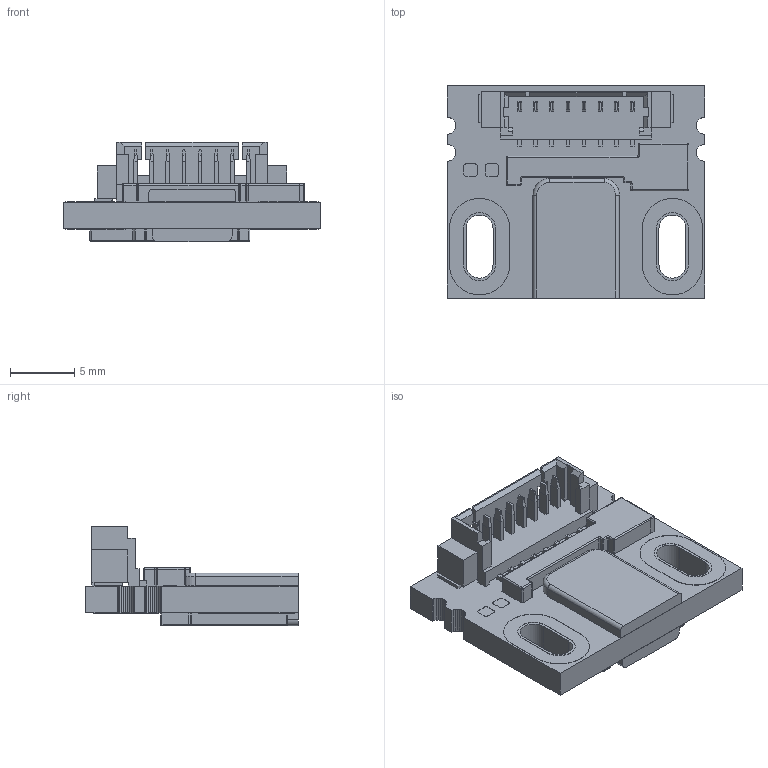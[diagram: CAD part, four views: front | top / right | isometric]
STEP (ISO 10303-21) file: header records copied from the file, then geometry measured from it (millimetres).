
FILE_DESCRIPTION (( 'STEP AP214' ), '1' );
FILE_NAME ('RLC2ICAxxxx07A19.STEP', '2022-07-15T05:14:14', ( '' ), ( '' ), 'SwSTEP 2.0', 'SolidWorks 2020', '' );
FILE_SCHEMA (( 'AUTOMOTIVE_DESIGN' ));
Length unit declared in the file: millimetre
Products named in the file (1): RLC2ICAxxxx07A19
Bounding box: 20 x 16.5 x 7.74 mm (x, y, z)
Volume: 945.5 mm3; surface area: 1659.5 mm2
Topology: 10 solids, 10 shells, 619 faces, 1697 edges, 1086 vertices
Faces by surface type: plane 457, cylinder 80, bspline 55, sphere 16, torus 11
Entity records: 25647 total; most frequent: CARTESIAN_POINT 4387, ORIENTED_EDGE 3364, DIRECTION 2863, EDGE_CURVE 1682, LINE 1395, VECTOR 1395, VERTEX_POINT 1086, AXIS2_PLACEMENT_3D 734
